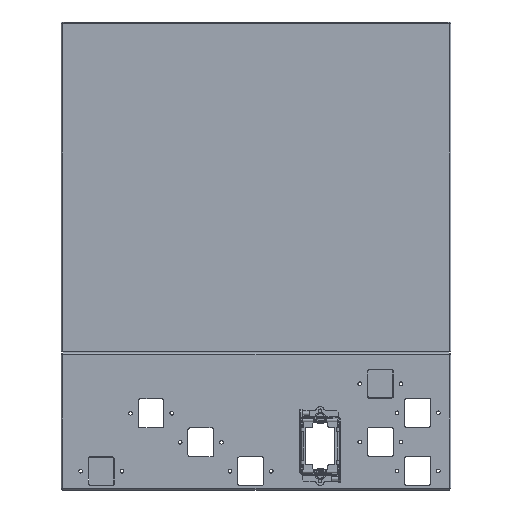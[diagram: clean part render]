
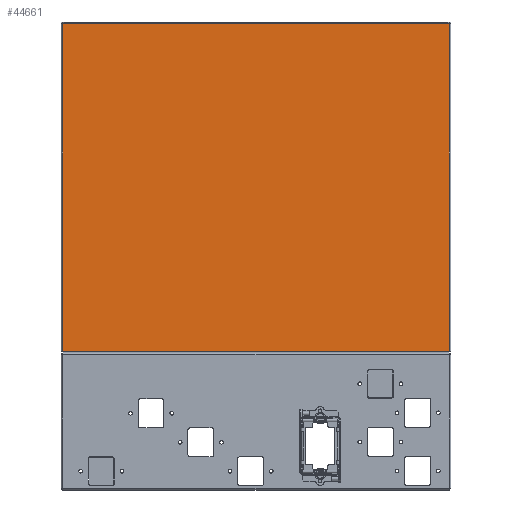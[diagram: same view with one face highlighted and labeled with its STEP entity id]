
A CAD part, top view. The second image highlights one B-rep face of the part: STEP entity #44661.
In plain terms, the highlighted planar face has unit normal (0, 0, 1).
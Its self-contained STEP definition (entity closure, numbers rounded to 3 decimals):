
#43996=CARTESIAN_POINT(' ',(-232.9,197.5,0.));
#44001=DIRECTION(' ',(0.,-1.,0.));
#44006=VECTOR(' ',#44001,1.);
#44011=LINE('',#43996,#44006);
#44016=CARTESIAN_POINT(' ',(-232.9,197.5,0.));
#44017=VERTEX_POINT(' ',#44016);
#44021=CARTESIAN_POINT(' ',(-232.9,-197.5,0.));
#44022=VERTEX_POINT(' ',#44021);
#44026=EDGE_CURVE(' ',#44017,#44022,#44011,.T.);
#44521=DIRECTION(' ',(0.,-0.,1.));
#44526=CARTESIAN_POINT(' ',(-232.9,-197.5,0.));
#44531=DIRECTION(' ',(1.,0.,-0.));
#44536=AXIS2_PLACEMENT_3D(' ',#44526,#44521,#44531);
#44541=PLANE('NONE',#44536);
#44546=ORIENTED_EDGE(' ',*,*,#44026,.T.);
#44551=CARTESIAN_POINT(' ',(-232.9,-197.5,0.));
#44556=DIRECTION(' ',(1.,0.,0.));
#44561=VECTOR(' ',#44556,1.);
#44566=LINE('',#44551,#44561);
#44571=CARTESIAN_POINT(' ',(232.9,-197.5,0.));
#44572=VERTEX_POINT(' ',#44571);
#44576=EDGE_CURVE(' ',#44022,#44572,#44566,.T.);
#44581=ORIENTED_EDGE(' ',*,*,#44576,.T.);
#44586=CARTESIAN_POINT(' ',(232.9,-197.5,0.));
#44591=DIRECTION(' ',(0.,1.,0.));
#44596=VECTOR(' ',#44591,1.);
#44601=LINE('',#44586,#44596);
#44606=CARTESIAN_POINT(' ',(232.9,197.5,0.));
#44607=VERTEX_POINT(' ',#44606);
#44611=EDGE_CURVE(' ',#44572,#44607,#44601,.T.);
#44616=ORIENTED_EDGE(' ',*,*,#44611,.T.);
#44621=CARTESIAN_POINT(' ',(232.9,197.5,0.));
#44626=DIRECTION(' ',(-1.,0.,0.));
#44631=VECTOR(' ',#44626,1.);
#44636=LINE('',#44621,#44631);
#44641=EDGE_CURVE(' ',#44607,#44017,#44636,.T.);
#44646=ORIENTED_EDGE(' ',*,*,#44641,.T.);
#44651=EDGE_LOOP(' ',(#44546,#44581,#44616,#44646));
#44656=FACE_OUTER_BOUND(' ',#44651,.T.);
#44661=ADVANCED_FACE('NONE',(#44656),#44541,.T.);
